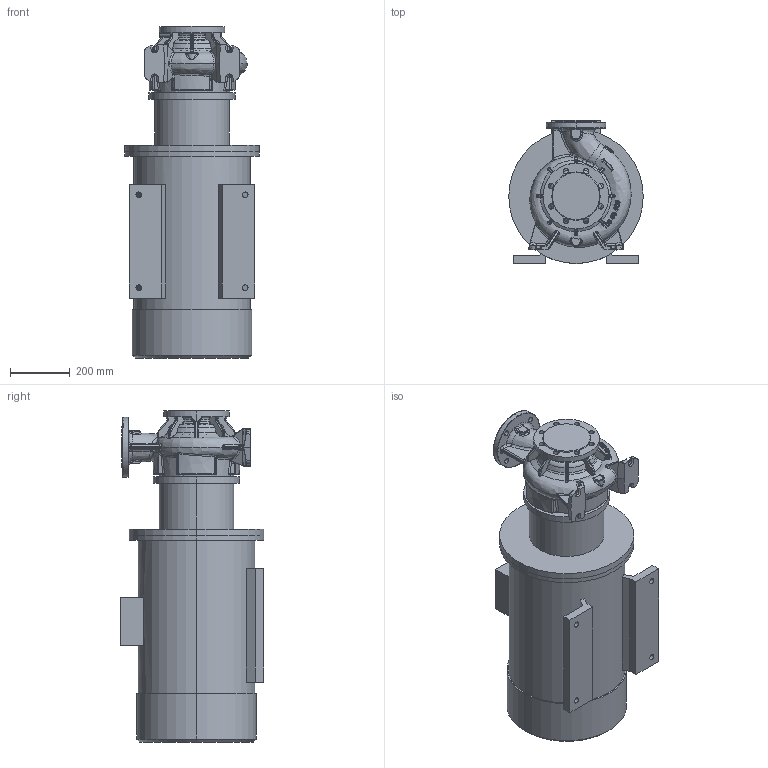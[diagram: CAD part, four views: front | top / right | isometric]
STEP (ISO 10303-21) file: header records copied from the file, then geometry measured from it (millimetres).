
FILE_DESCRIPTION (( 'STEP AP214' ), '1' );
FILE_NAME ('KRM 100-80-200-2-45.STEP', '2026-04-22T12:39:01', ( '' ), ( '' ), 'SwSTEP 2.0', 'SolidWorks 2016', '' );
FILE_SCHEMA (( 'AUTOMOTIVE_DESIGN' ));
Length unit declared in the file: millimetre
Products named in the file (1): KRM 100-80-200-2-45
Bounding box: 450 x 480 x 1110.8 mm (x, y, z)
Volume: 115508531.9 mm3; surface area: 2709523.1 mm2
Topology: 14 solids, 14 shells, 1379 faces, 3303 edges, 1969 vertices
Faces by surface type: bspline 620, cylinder 308, plane 223, torus 119, cone 81, sphere 28
Entity records: 107041 total; most frequent: CARTESIAN_POINT 64429, ORIENTED_EDGE 6586, DIRECTION 4522, EDGE_CURVE 3293, VERTEX_POINT 1969, AXIS2_PLACEMENT_3D 1879, EDGE_LOOP 1452, UNCERTAINTY_MEASURE_WITH_UNIT 1395
